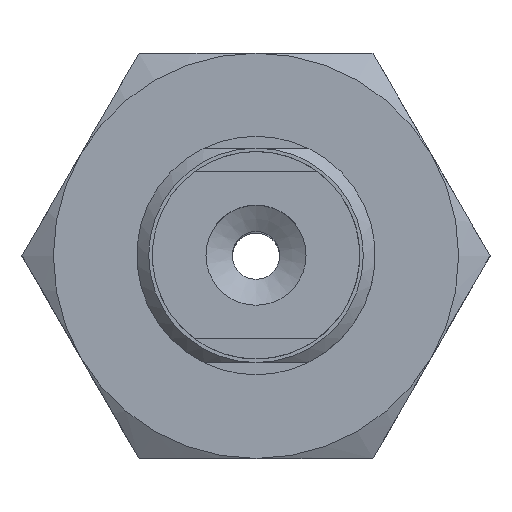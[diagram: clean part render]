
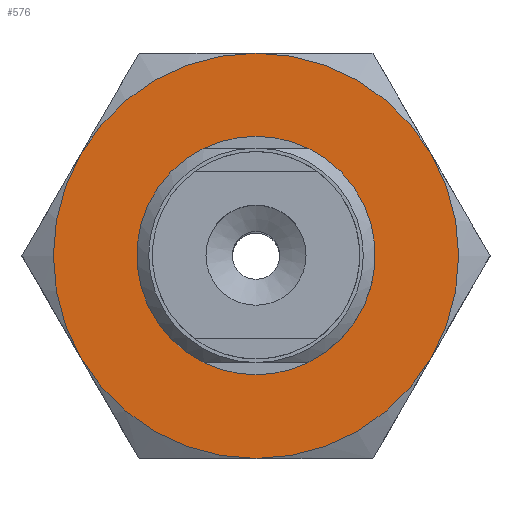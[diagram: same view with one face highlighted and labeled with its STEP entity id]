
A CAD part, top view. The second image highlights one B-rep face of the part: STEP entity #576.
In plain terms, the highlighted planar face has unit normal (0, 0, 1).
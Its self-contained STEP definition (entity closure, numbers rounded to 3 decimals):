
#576=ADVANCED_FACE('',(#805,#806),#807,.T.);
#805=FACE_BOUND('',#1115,.T.);
#806=FACE_OUTER_BOUND('',#1116,.T.);
#807=PLANE('',#1117);
#1115=EDGE_LOOP('',(#1751));
#1116=EDGE_LOOP('',(#1752,#1753,#1754,#1755,#1756,#1757));
#1117=AXIS2_PLACEMENT_3D('',#1758,#1759,#1760);
#1751=ORIENTED_EDGE('',*,*,#2241,.F.);
#1752=ORIENTED_EDGE('',*,*,#2246,.F.);
#1753=ORIENTED_EDGE('',*,*,#2248,.F.);
#1754=ORIENTED_EDGE('',*,*,#2227,.F.);
#1755=ORIENTED_EDGE('',*,*,#2222,.F.);
#1756=ORIENTED_EDGE('',*,*,#2250,.F.);
#1757=ORIENTED_EDGE('',*,*,#2247,.F.);
#1758=CARTESIAN_POINT('',(-9.815,-8.5,4.0));
#1759=DIRECTION('',(0.0,0.0,1.0));
#1760=DIRECTION('',(1.0,0.0,0.0));
#2222=EDGE_CURVE('',#2512,#2515,#2516,.T.);
#2227=EDGE_CURVE('',#2515,#2500,#2522,.T.);
#2241=EDGE_CURVE('',#2546,#2546,#2547,.T.);
#2246=EDGE_CURVE('',#2541,#2550,#2553,.T.);
#2247=EDGE_CURVE('',#2550,#2535,#2554,.T.);
#2248=EDGE_CURVE('',#2500,#2541,#2555,.T.);
#2250=EDGE_CURVE('',#2535,#2512,#2557,.T.);
#2500=VERTEX_POINT('',#3016);
#2512=VERTEX_POINT('',#3046);
#2515=VERTEX_POINT('',#3057);
#2516=CIRCLE('',#3058,8.5);
#2522=CIRCLE('',#3080,8.5);
#2535=VERTEX_POINT('',#3110);
#2541=VERTEX_POINT('',#3129);
#2546=VERTEX_POINT('',#3142);
#2547=CIRCLE('',#3143,4.5);
#2550=VERTEX_POINT('',#3150);
#2553=CIRCLE('',#3161,8.5);
#2554=CIRCLE('',#3162,8.5);
#2555=CIRCLE('',#3163,8.5);
#2557=CIRCLE('',#3165,8.5);
#3016=CARTESIAN_POINT('',(7.361,-4.25,4.0));
#3046=CARTESIAN_POINT('',(0.,8.5,4.0));
#3057=CARTESIAN_POINT('',(7.361,4.25,4.0));
#3058=AXIS2_PLACEMENT_3D('',#3528,#3529,#3530);
#3080=AXIS2_PLACEMENT_3D('',#3531,#3532,#3533);
#3110=CARTESIAN_POINT('',(-7.361,4.25,4.0));
#3129=CARTESIAN_POINT('',(0.,-8.5,4.0));
#3142=CARTESIAN_POINT('',(0.0,-4.5,4.0));
#3143=AXIS2_PLACEMENT_3D('',#3542,#3543,#3544);
#3150=CARTESIAN_POINT('',(-7.361,-4.25,4.0));
#3161=AXIS2_PLACEMENT_3D('',#3548,#3549,#3550);
#3162=AXIS2_PLACEMENT_3D('',#3551,#3552,#3553);
#3163=AXIS2_PLACEMENT_3D('',#3554,#3555,#3556);
#3165=AXIS2_PLACEMENT_3D('',#3560,#3561,#3562);
#3528=CARTESIAN_POINT('',(0.,0.,4.0));
#3529=DIRECTION('',(0.,0.,-1.0));
#3530=DIRECTION('',(0.866,0.5,0.));
#3531=CARTESIAN_POINT('',(0.,0.,4.0));
#3532=DIRECTION('',(0.,0.,-1.0));
#3533=DIRECTION('',(0.866,0.5,0.));
#3542=CARTESIAN_POINT('',(0.0,0.0,4.0));
#3543=DIRECTION('',(0.0,0.,1.0));
#3544=DIRECTION('',(0.0,-1.0,0.));
#3548=CARTESIAN_POINT('',(0.,0.,4.0));
#3549=DIRECTION('',(0.,0.,-1.0));
#3550=DIRECTION('',(0.866,0.5,0.));
#3551=CARTESIAN_POINT('',(0.,0.,4.0));
#3552=DIRECTION('',(0.,0.,-1.0));
#3553=DIRECTION('',(0.866,0.5,0.));
#3554=CARTESIAN_POINT('',(0.,0.,4.0));
#3555=DIRECTION('',(0.,0.,-1.0));
#3556=DIRECTION('',(0.866,0.5,0.));
#3560=CARTESIAN_POINT('',(0.,0.,4.0));
#3561=DIRECTION('',(0.,0.,-1.0));
#3562=DIRECTION('',(0.866,0.5,0.));
